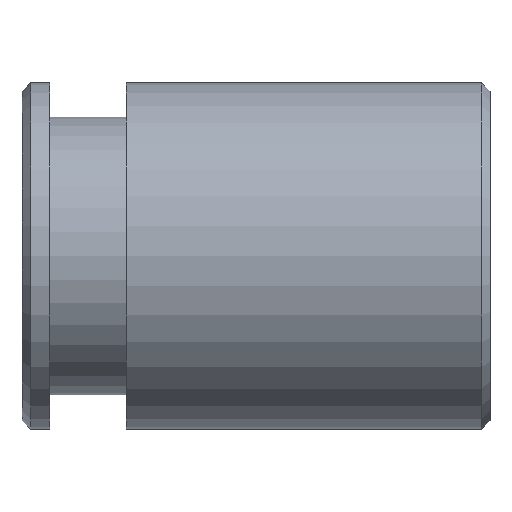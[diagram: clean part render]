
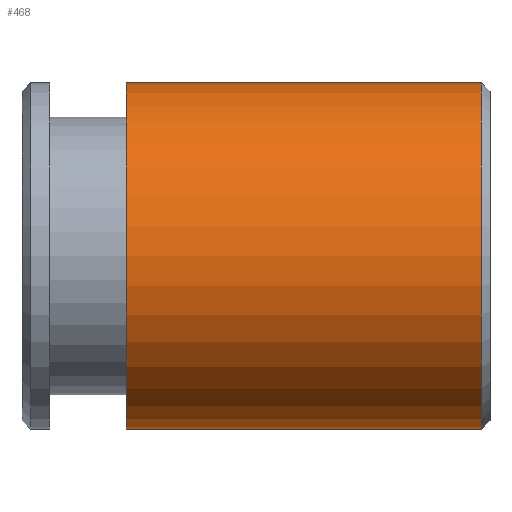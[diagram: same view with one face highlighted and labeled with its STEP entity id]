
A CAD part, top view. The second image highlights one B-rep face of the part: STEP entity #468.
In plain terms, the highlighted cylindrical face has radius 10 mm (diameter 20 mm), a partial arc.
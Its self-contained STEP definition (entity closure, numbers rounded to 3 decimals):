
#108=CARTESIAN_POINT('',(26.5,0.,0.));
#109=DIRECTION('',(1.,0.,0.));
#110=DIRECTION('',(0.,1.,0.));
#111=AXIS2_PLACEMENT_3D('',#108,#109,#110);
#116=DIRECTION('',(-1.,0.,0.));
#117=VECTOR('',#116,20.5);
#118=CARTESIAN_POINT('',(26.5,10.,0.));
#119=LINE('',#118,#117);
#123=DIRECTION('',(-1.,0.,0.));
#124=VECTOR('',#123,20.5);
#125=CARTESIAN_POINT('',(26.5,-10.,0.));
#126=LINE('',#125,#124);
#138=CARTESIAN_POINT('',(6.,0.,0.));
#139=DIRECTION('',(1.,0.,0.));
#140=DIRECTION('',(0.,1.,0.));
#141=AXIS2_PLACEMENT_3D('',#138,#139,#140);
#327=CARTESIAN_POINT('',(26.5,10.,0.));
#329=VERTEX_POINT('',#327);
#330=CARTESIAN_POINT('',(6.,10.,0.));
#331=VERTEX_POINT('',#330);
#351=CARTESIAN_POINT('',(26.5,-10.,0.));
#353=VERTEX_POINT('',#351);
#354=CARTESIAN_POINT('',(6.,-10.,0.));
#355=VERTEX_POINT('',#354);
#454=CARTESIAN_POINT('',(-1.35,0.,0.));
#455=DIRECTION('',(1.,0.,0.));
#456=DIRECTION('',(0.,-1.,0.));
#457=AXIS2_PLACEMENT_3D('',#454,#455,#456);
#458=CYLINDRICAL_SURFACE('',#457,10.);
#460=ORIENTED_EDGE('',*,*,#459,.F.);
#461=ORIENTED_EDGE('',*,*,#449,.T.);
#463=ORIENTED_EDGE('',*,*,#462,.T.);
#465=ORIENTED_EDGE('',*,*,#464,.F.);
#466=EDGE_LOOP('',(#460,#461,#463,#465));
#467=FACE_OUTER_BOUND('',#466,.F.);
#112=CIRCLE('',#111,10.);
#142=CIRCLE('',#141,10.);
#449=EDGE_CURVE('',#329,#353,#112,.T.);
#459=EDGE_CURVE('',#329,#331,#119,.T.);
#462=EDGE_CURVE('',#353,#355,#126,.T.);
#464=EDGE_CURVE('',#331,#355,#142,.T.);
#468=ADVANCED_FACE('',(#467),#458,.T.);
